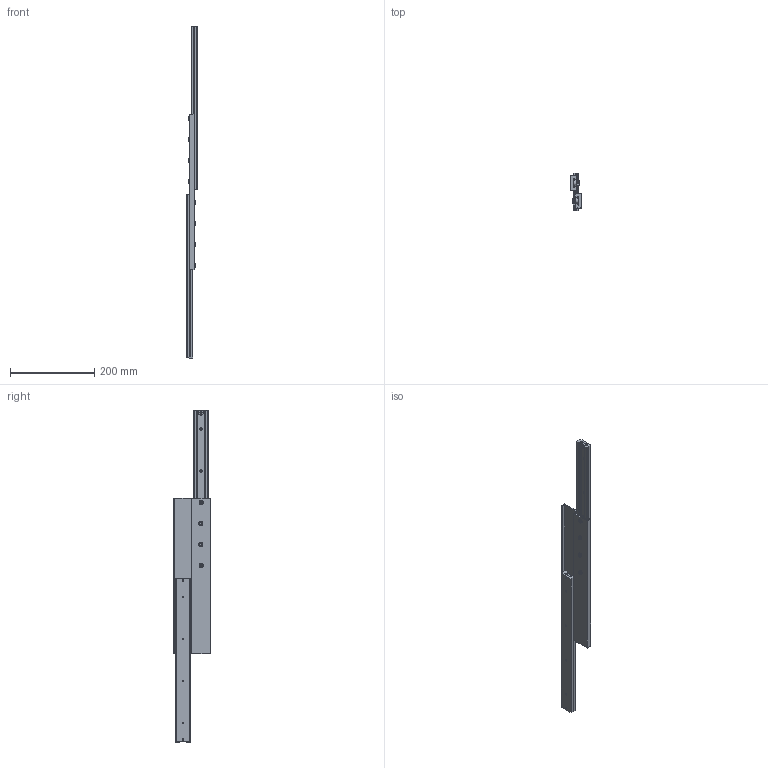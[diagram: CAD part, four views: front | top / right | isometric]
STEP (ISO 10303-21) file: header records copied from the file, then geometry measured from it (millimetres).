
FILE_DESCRIPTION (( 'STEP AP214' ), '1' );
FILE_NAME ('LSIM35DVL.STEP', '2021-06-13T23:42:47', ( '' ), ( '' ), 'SwSTEP 2.0', 'SolidWorks 2019', '' );
FILE_SCHEMA (( 'AUTOMOTIVE_DESIGN' ));
Length unit declared in the file: millimetre
Products named in the file (4): LSIM35DVLリテーナ; LSIM35ストッパー; LSIM35DVLレール; LSIM35DVL
Assembly tree (7 placements, depth 2):
  LSIM35DVL
    LSIM35DVLレール  x2
    LSIM35DVLリテーナ
    LSIM35ストッパー  x4
Bounding box: 24 x 87.8 x 790 mm (x, y, z)
Volume: 386778.5 mm3; surface area: 191748 mm2
Topology: 7 solids, 7 shells, 436 faces, 958 edges, 608 vertices
Faces by surface type: plane 208, cylinder 116, cone 104, torus 8
Full cylindrical faces by diameter (mm): 3.3 x4, 3.4 x8, 4 x4, 5 x12, 6.5 x8, 8 x4, 8.6 x16, 10 x8, 12 x4, 16 x16
Entity records: 9041 total; most frequent: CARTESIAN_POINT 2108, DIRECTION 1389, ORIENTED_EDGE 1254, EDGE_CURVE 627, AXIS2_PLACEMENT_3D 607, EDGE_LOOP 483, VERTEX_POINT 430, FACE_OUTER_BOUND 407
